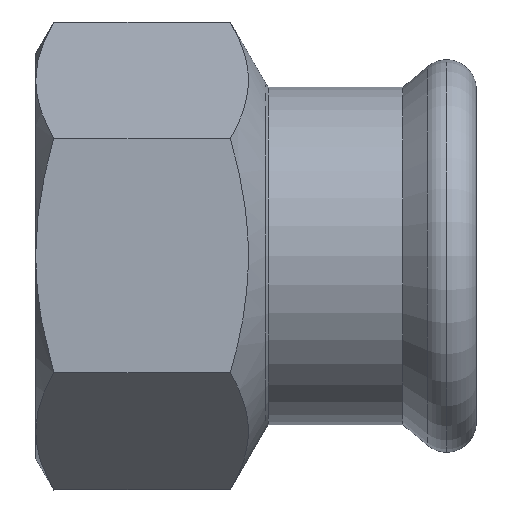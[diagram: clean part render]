
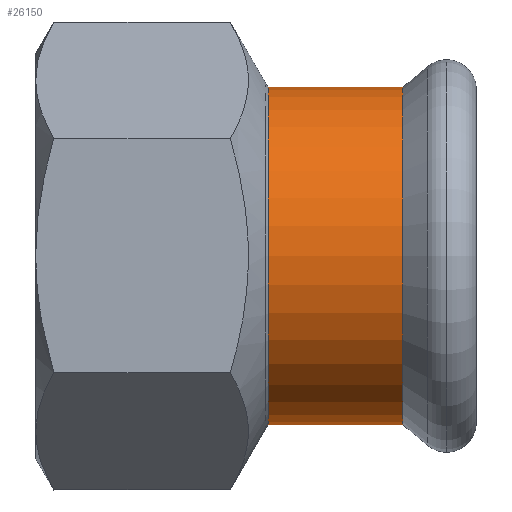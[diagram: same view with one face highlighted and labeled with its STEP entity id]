
A CAD part, top view. The second image highlights one B-rep face of the part: STEP entity #26150.
In plain terms, the highlighted cylindrical face has radius 19.15 mm (diameter 38.3 mm), a partial arc.
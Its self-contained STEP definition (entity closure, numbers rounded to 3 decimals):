
#2310=CARTESIAN_POINT('',(237.754,95.567,
0.));
#2320=VERTEX_POINT('',#2310);
#2500=CARTESIAN_POINT('',(237.754,133.867,0.));
#2510=VERTEX_POINT('',#2500);
#2540=CARTESIAN_POINT('',(237.754,114.717,0.));
#2550=DIRECTION('',(-1.,0.,0.));
#2560=DIRECTION('',(0.,1.,0.));
#2570=AXIS2_PLACEMENT_3D('',#2540,#2550,#2560);
#2580=CIRCLE('',#2570,19.15);
#2590=EDGE_CURVE('',#2320,#2510,#2580,.T.);
#25600=CARTESIAN_POINT('',(253.055,95.567,0.));
#25610=VERTEX_POINT('',#25600);
#25790=CARTESIAN_POINT('',(253.055,133.867,
0.));
#25800=VERTEX_POINT('',#25790);
#25830=CARTESIAN_POINT('',(253.055,114.717,0.));
#25840=DIRECTION('',(1.,0.,0.));
#25850=DIRECTION('',(0.,1.,0.));
#25860=AXIS2_PLACEMENT_3D('',#25830,#25840,#25850);
#25870=CIRCLE('',#25860,19.15);
#25930=CARTESIAN_POINT('',(243.649,114.717,0.));
#25940=DIRECTION('',(-1.,0.,0.));
#25950=DIRECTION('',(0.,1.,0.));
#25960=AXIS2_PLACEMENT_3D('',#25930,#25940,#25950);
#25970=CYLINDRICAL_SURFACE('',#25960,19.15);
#25980=CARTESIAN_POINT('',(243.649,133.867,0.));
#25990=DIRECTION('',(-1.,0.,0.));
#26000=VECTOR('',#25990,1.);
#26010=LINE('',#25980,#26000);
#26020=EDGE_CURVE('',#25800,#2510,#26010,.T.);
#26030=ORIENTED_EDGE('',*,*,#26020,.T.);
#26040=EDGE_CURVE('',#25800,#25610,#25870,.T.);
#26050=ORIENTED_EDGE('',*,*,#26040,.F.);
#26060=CARTESIAN_POINT('',(243.649,95.567,
0.));
#26070=DIRECTION('',(-1.,0.,0.));
#26080=VECTOR('',#26070,1.);
#26090=LINE('',#26060,#26080);
#26100=EDGE_CURVE('',#25610,#2320,#26090,.T.);
#26110=ORIENTED_EDGE('',*,*,#26100,.F.);
#26120=ORIENTED_EDGE('',*,*,#2590,.F.);
#26130=EDGE_LOOP('',(#26120,#26110,#26050,#26030));
#26140=FACE_OUTER_BOUND('',#26130,.T.);
#26150=ADVANCED_FACE('',(#26140),#25970,.T.);
